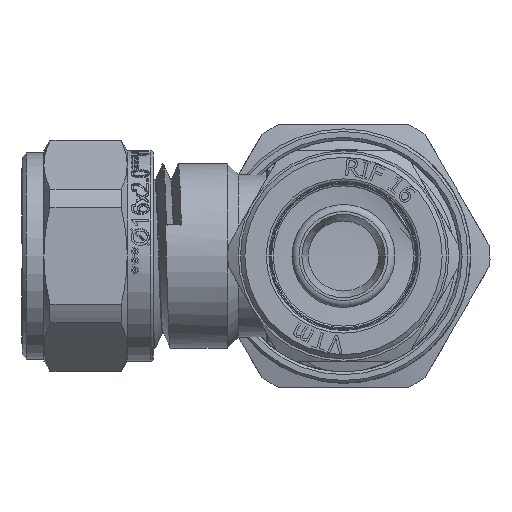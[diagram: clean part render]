
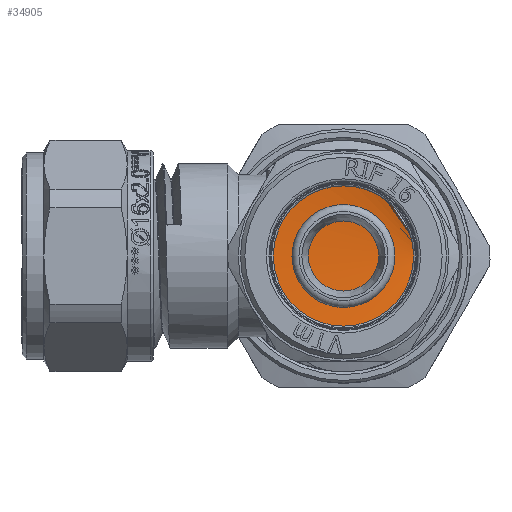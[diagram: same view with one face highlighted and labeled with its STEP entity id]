
A CAD part, left-side view. The second image highlights one B-rep face of the part: STEP entity #34905.
In plain terms, the highlighted cylindrical face has radius 9.3 mm (diameter 18.6 mm), a full revolution.
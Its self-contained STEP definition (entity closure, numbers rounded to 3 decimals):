
#2038=FACE_OUTER_BOUND('',#4035,.T.);
#4035=EDGE_LOOP('',(#23562,#23563,#23564,#23565,#23566,#23567,#23568,#23569));
#6210=B_SPLINE_CURVE_WITH_KNOTS('',3,(#46207,#46208,#46209,#46210,#46211,
#46212,#46213,#46214,#46215,#46216,#46217,#46218,#46219,#46220,#46221,#46222,
#46223,#46224,#46225,#46226,#46227,#46228,#46229,#46230,#46231,#46232,#46233,
#46234,#46235,#46236,#46237,#46238,#46239,#46240,#46241,#46242,#46243),
 .UNSPECIFIED.,.F.,.F.,(4,3,3,3,3,3,3,3,3,3,3,3,4),(0.776,0.985,
1.478,1.97,2.463,2.955,3.448,
3.941,4.433,4.926,5.418,5.911,
6.128),.UNSPECIFIED.);
#6211=B_SPLINE_CURVE_WITH_KNOTS('',3,(#46246,#46247,#46248,#46249,#46250,
#46251,#46252,#46253,#46254,#46255),.UNSPECIFIED.,.F.,.F.,(4,3,3,4),(-1.28,
-0.965,-0.483,0.),.UNSPECIFIED.);
#8428=CIRCLE('',#36947,9.3);
#8429=CIRCLE('',#36948,9.3);
#8430=CIRCLE('',#36949,9.3);
#9331=LINE('',#46205,#11733);
#9332=LINE('',#46257,#11734);
#11733=VECTOR('',#38856,9.3);
#11734=VECTOR('',#38859,9.3);
#14141=VERTEX_POINT('',#45330);
#14162=VERTEX_POINT('',#46204);
#14163=VERTEX_POINT('',#46206);
#14164=VERTEX_POINT('',#46244);
#14165=VERTEX_POINT('',#46256);
#14166=VERTEX_POINT('',#46258);
#17936=EDGE_CURVE('',#14141,#14162,#9331,.T.);
#17937=EDGE_CURVE('',#14163,#14141,#6210,.T.);
#17938=EDGE_CURVE('',#14164,#14163,#8428,.T.);
#17939=EDGE_CURVE('',#14162,#14164,#6211,.T.);
#17940=EDGE_CURVE('',#14162,#14165,#9332,.T.);
#17941=EDGE_CURVE('',#14166,#14165,#8429,.T.);
#17942=EDGE_CURVE('',#14165,#14166,#8430,.T.);
#23562=ORIENTED_EDGE('',*,*,#17936,.F.);
#23563=ORIENTED_EDGE('',*,*,#17937,.F.);
#23564=ORIENTED_EDGE('',*,*,#17938,.F.);
#23565=ORIENTED_EDGE('',*,*,#17939,.F.);
#23566=ORIENTED_EDGE('',*,*,#17940,.T.);
#23567=ORIENTED_EDGE('',*,*,#17941,.F.);
#23568=ORIENTED_EDGE('',*,*,#17942,.F.);
#23569=ORIENTED_EDGE('',*,*,#17940,.F.);
#34664=CYLINDRICAL_SURFACE('',#36946,9.3);
#34905=ADVANCED_FACE('',(#2038),#34664,.F.);
#36946=AXIS2_PLACEMENT_3D('',#46203,#38854,#38855);
#36947=AXIS2_PLACEMENT_3D('',#46245,#38857,#38858);
#36948=AXIS2_PLACEMENT_3D('',#46259,#38860,#38861);
#36949=AXIS2_PLACEMENT_3D('',#46260,#38862,#38863);
#38854=DIRECTION('center_axis',(1.,0.,0.));
#38855=DIRECTION('ref_axis',(0.,1.,0.));
#38856=DIRECTION('',(-1.,0.,0.));
#38857=DIRECTION('center_axis',(-1.,0.,0.));
#38858=DIRECTION('ref_axis',(0.,0.,1.));
#38859=DIRECTION('',(-1.,0.,0.));
#38860=DIRECTION('center_axis',(1.,0.,0.));
#38861=DIRECTION('ref_axis',(0.,0.,-1.));
#38862=DIRECTION('center_axis',(1.,0.,0.));
#38863=DIRECTION('ref_axis',(0.,0.,-1.));
#45330=CARTESIAN_POINT('',(-23.967,-9.3,0.));
#46203=CARTESIAN_POINT('Origin',(-24.216,0.,0.));
#46204=CARTESIAN_POINT('',(-25.133,-9.3,0.));
#46205=CARTESIAN_POINT('',(-24.216,-9.3,0.));
#46206=CARTESIAN_POINT('',(-25.5,-5.554,-7.46));
#46207=CARTESIAN_POINT('Ctrl Pts',(-25.5,-5.553,-7.459));
#46208=CARTESIAN_POINT('Ctrl Pts',(-25.48,-5.032,
-7.847));
#46209=CARTESIAN_POINT('Ctrl Pts',(-25.46,-4.471,
-8.181));
#46210=CARTESIAN_POINT('Ctrl Pts',(-25.44,-3.882,
-8.452));
#46211=CARTESIAN_POINT('Ctrl Pts',(-25.393,-2.494,
-9.089));
#46212=CARTESIAN_POINT('Ctrl Pts',(-25.346,-0.947,
-9.378));
#46213=CARTESIAN_POINT('Ctrl Pts',(-25.299,0.577,
-9.283));
#46214=CARTESIAN_POINT('Ctrl Pts',(-25.252,2.1,-9.188));
#46215=CARTESIAN_POINT('Ctrl Pts',(-25.205,3.6,-8.71));
#46216=CARTESIAN_POINT('Ctrl Pts',(-25.158,4.898,-7.907));
#46217=CARTESIAN_POINT('Ctrl Pts',(-25.111,6.196,-7.103));
#46218=CARTESIAN_POINT('Ctrl Pts',(-25.064,7.291,-5.972));
#46219=CARTESIAN_POINT('Ctrl Pts',(-25.017,8.055,-4.65));
#46220=CARTESIAN_POINT('Ctrl Pts',(-24.97,8.818,-3.328));
#46221=CARTESIAN_POINT('Ctrl Pts',(-24.923,9.249,-1.814));
#46222=CARTESIAN_POINT('Ctrl Pts',(-24.876,9.296,-0.289));
#46223=CARTESIAN_POINT('Ctrl Pts',(-24.829,9.344,1.237));
#46224=CARTESIAN_POINT('Ctrl Pts',(-24.781,9.007,2.775));
#46225=CARTESIAN_POINT('Ctrl Pts',(-24.734,8.328,4.142));
#46226=CARTESIAN_POINT('Ctrl Pts',(-24.687,7.648,5.509));
#46227=CARTESIAN_POINT('Ctrl Pts',(-24.64,6.624,6.705));
#46228=CARTESIAN_POINT('Ctrl Pts',(-24.593,5.379,7.588));
#46229=CARTESIAN_POINT('Ctrl Pts',(-24.546,4.134,8.47));
#46230=CARTESIAN_POINT('Ctrl Pts',(-24.499,2.666,9.04));
#46231=CARTESIAN_POINT('Ctrl Pts',(-24.452,1.151,9.229));
#46232=CARTESIAN_POINT('Ctrl Pts',(-24.405,-0.363,
9.418));
#46233=CARTESIAN_POINT('Ctrl Pts',(-24.358,-1.926,
9.226));
#46234=CARTESIAN_POINT('Ctrl Pts',(-24.311,-3.35,
8.677));
#46235=CARTESIAN_POINT('Ctrl Pts',(-24.264,-4.774,
8.127));
#46236=CARTESIAN_POINT('Ctrl Pts',(-24.217,-6.06,
7.219));
#46237=CARTESIAN_POINT('Ctrl Pts',(-24.17,-7.055,
6.061));
#46238=CARTESIAN_POINT('Ctrl Pts',(-24.123,-8.05,
4.903));
#46239=CARTESIAN_POINT('Ctrl Pts',(-24.076,-8.753,3.495));
#46240=CARTESIAN_POINT('Ctrl Pts',(-24.029,-9.082,2.004));
#46241=CARTESIAN_POINT('Ctrl Pts',(-24.008,-9.227,
1.347));
#46242=CARTESIAN_POINT('Ctrl Pts',(-23.987,-9.299,
0.674));
#46243=CARTESIAN_POINT('Ctrl Pts',(-23.967,-9.299,
0.));
#46244=CARTESIAN_POINT('',(-25.5,-2.667,8.909));
#46245=CARTESIAN_POINT('Origin',(-25.5,0.,
0.));
#46246=CARTESIAN_POINT('Ctrl Pts',(-25.133,-9.3,
0.));
#46247=CARTESIAN_POINT('Ctrl Pts',(-25.163,-9.299,
0.975));
#46248=CARTESIAN_POINT('Ctrl Pts',(-25.193,-9.146,1.951));
#46249=CARTESIAN_POINT('Ctrl Pts',(-25.223,-8.844,
2.878));
#46250=CARTESIAN_POINT('Ctrl Pts',(-25.27,-8.381,
4.3));
#46251=CARTESIAN_POINT('Ctrl Pts',(-25.316,-7.568,
5.609));
#46252=CARTESIAN_POINT('Ctrl Pts',(-25.362,-6.498,6.654));
#46253=CARTESIAN_POINT('Ctrl Pts',(-25.408,-5.428,
7.699));
#46254=CARTESIAN_POINT('Ctrl Pts',(-25.454,-4.101,
8.48));
#46255=CARTESIAN_POINT('Ctrl Pts',(-25.5,-2.667,8.909));
#46256=CARTESIAN_POINT('',(-26.366,-9.3,0.));
#46257=CARTESIAN_POINT('',(-24.216,-9.3,0.));
#46258=CARTESIAN_POINT('',(-26.366,9.3,0.));
#46259=CARTESIAN_POINT('Origin',(-26.366,0.,0.));
#46260=CARTESIAN_POINT('Origin',(-26.366,0.,0.));
